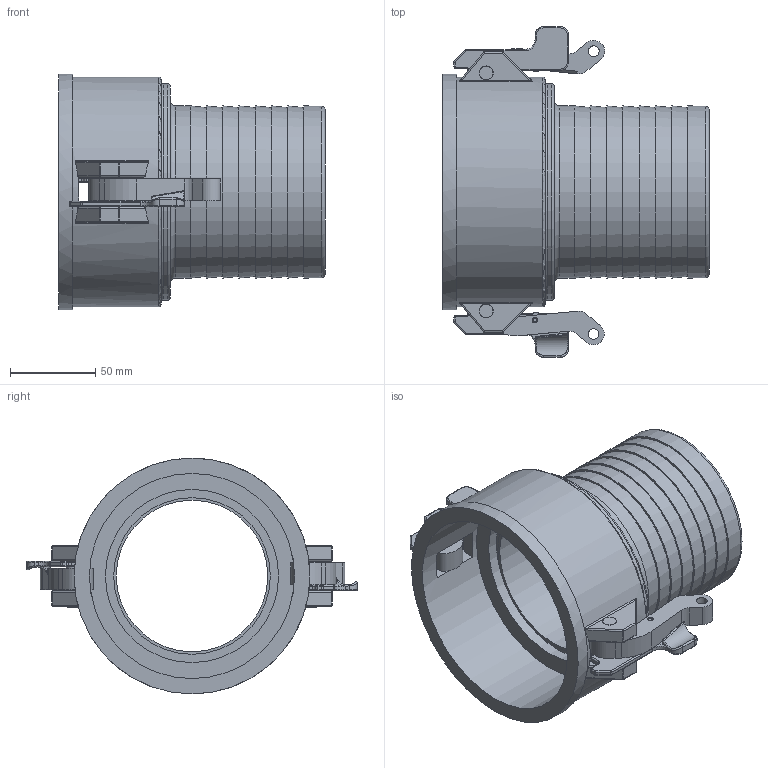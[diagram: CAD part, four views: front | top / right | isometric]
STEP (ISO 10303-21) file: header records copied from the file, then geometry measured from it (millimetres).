
FILE_DESCRIPTION(/* description */ ('Alibre Inc.'),/* implementation_level */ '2;1');
FILE_NAME(/* name */ 'export0',/* time_stamp */ '2016-04-15T17:24:53-04:00',/* author */ (''),/* organization */ (''),/* preprocessor_version */ 'ST-DEVELOPER v14',/* originating_system */ 'Alibre',/* authorisation */ '');
FILE_SCHEMA (('CONFIG_CONTROL_DESIGN'));
Length unit declared in the file: centimetre
Products named in the file (6): ID_1; ID_2; ID_3; ID_4
Bounding box: 156.21 x 194.06 x 138.43 mm (x, y, z)
Volume: 472791.2 mm3; surface area: 161556.8 mm2
Topology: 8 solids, 8 shells, 350 faces, 818 edges, 484 vertices
Faces by surface type: cylinder 146, plane 107, torus 49, sphere 20, bspline 16, cone 12
Full cylindrical faces by diameter (mm): 6.35 x2, 7.874 x4, 7.925 x4, 8.179 x4, 88.9 x1, 91.948 x1, 101.092 x1, 101.6 x1, 120.396 x1, 123.698 x1, 125.222 x1, 127 x1, 134.874 x1, 138.43 x1
Entity records: 8836 total; most frequent: CARTESIAN_POINT 2987, DIRECTION 1093, ORIENTED_EDGE 994, EDGE_CURVE 497, AXIS2_PLACEMENT_3D 492, VERTEX_POINT 317, EDGE_LOOP 310, FACE_BOUND 310
